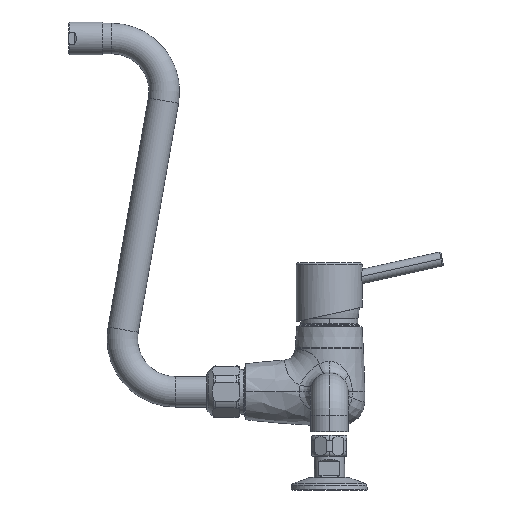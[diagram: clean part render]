
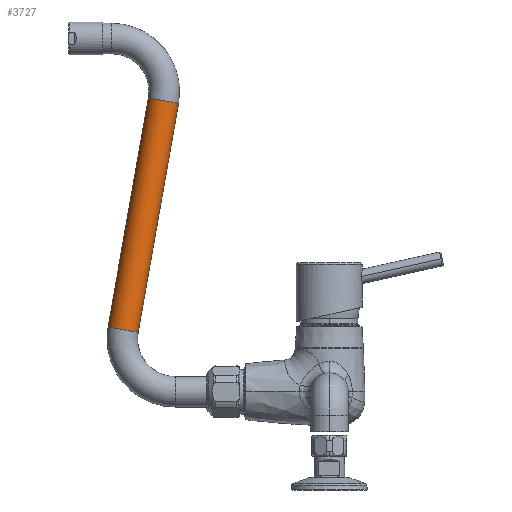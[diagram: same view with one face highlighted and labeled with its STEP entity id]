
A CAD part, left-side view. The second image highlights one B-rep face of the part: STEP entity #3727.
In plain terms, the highlighted cylindrical face has radius 13 mm (diameter 26 mm), a partial arc.
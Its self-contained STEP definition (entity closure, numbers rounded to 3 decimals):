
#51=CARTESIAN_POINT('',(0.,227.316,52.814));
#52=DIRECTION('',(0.,-0.174,0.985));
#53=DIRECTION('',(0.,0.985,0.174));
#54=AXIS2_PLACEMENT_3D('',#51,#52,#53);
#56=DIRECTION('',(0.,-0.174,0.985));
#57=VECTOR('',#56,197.8);
#58=CARTESIAN_POINT('',(0.,240.119,55.072));
#59=LINE('',#58,#57);
#3235=DIRECTION('',(0.,-0.174,0.985));
#3236=VECTOR('',#3235,197.8);
#3237=CARTESIAN_POINT('',(0.,214.514,50.557));
#3238=LINE('',#3237,#3236);
#3249=CARTESIAN_POINT('',(0.,192.969,
247.609));
#3250=DIRECTION('',(0.,-0.174,0.985));
#3251=DIRECTION('',(0.,0.985,0.174));
#3252=AXIS2_PLACEMENT_3D('',#3249,#3250,#3251);
#3574=CARTESIAN_POINT('',(0.,214.514,50.557));
#3575=CARTESIAN_POINT('',(0.,240.119,55.072));
#3576=VERTEX_POINT('',#3574);
#3577=VERTEX_POINT('',#3575);
#3578=CARTESIAN_POINT('',(0.,180.166,
245.352));
#3579=CARTESIAN_POINT('',(0.,205.771,
249.867));
#3580=VERTEX_POINT('',#3578);
#3581=VERTEX_POINT('',#3579);
#3712=CARTESIAN_POINT('',(0.,227.316,52.814));
#3713=DIRECTION('',(0.,-0.174,0.985));
#3714=DIRECTION('',(0.,-0.985,-0.174));
#3715=AXIS2_PLACEMENT_3D('',#3712,#3713,#3714);
#3716=CYLINDRICAL_SURFACE('',#3715,13.);
#3718=ORIENTED_EDGE('',*,*,#3717,.F.);
#3720=ORIENTED_EDGE('',*,*,#3719,.T.);
#3722=ORIENTED_EDGE('',*,*,#3721,.T.);
#3724=ORIENTED_EDGE('',*,*,#3723,.F.);
#3725=EDGE_LOOP('',(#3718,#3720,#3722,#3724));
#3726=FACE_OUTER_BOUND('',#3725,.F.);
#55=CIRCLE('',#54,13.);
#3253=CIRCLE('',#3252,13.);
#3717=EDGE_CURVE('',#3577,#3576,#55,.T.);
#3719=EDGE_CURVE('',#3577,#3581,#59,.T.);
#3721=EDGE_CURVE('',#3581,#3580,#3253,.T.);
#3723=EDGE_CURVE('',#3576,#3580,#3238,.T.);
#3727=ADVANCED_FACE('',(#3726),#3716,.T.);
